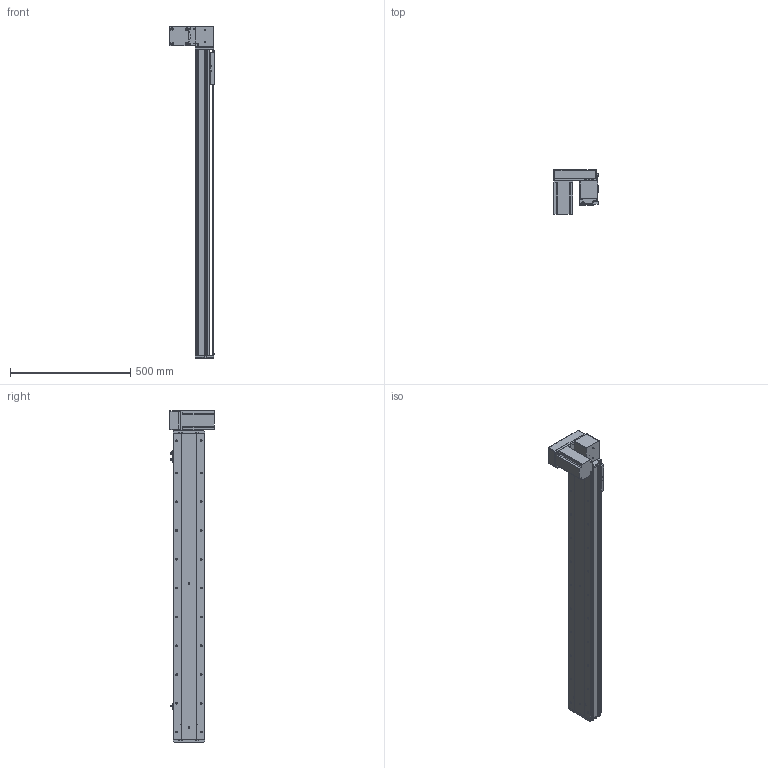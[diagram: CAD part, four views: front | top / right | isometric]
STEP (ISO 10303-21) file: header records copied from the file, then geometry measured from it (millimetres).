
FILE_DESCRIPTION (( 'STEP AP214' ), '1' );
FILE_NAME ('KSD130B-S1050-MRD-CM.STEP', '2019-11-16T00:49:51', ( '微软用户' ), ( '微软中国' ), 'SwSTEP 2.0', 'SolidWorks 2014', '' );
FILE_SCHEMA (( 'AUTOMOTIVE_DESIGN' ));
Length unit declared in the file: millimetre
Products named in the file (12): 130宽模组保护罩上下左右折-同步带; 台达ECMA－C20807AS伺服电机; 130宽模组马达安装板连板上下折丝杆同步带; 覜茼え100遵圉猾敕; U倰嫖萇EEㄜSX672; 130宽盖板半封闭同步带-1050行程; 130宽马达安装板同步带右-改镜向_默认<按加工>; 130宽马达安装板同步带半封闭; 130宽同步带安装座半封闭; 130宽端盖同步带半封闭; 130宽底板半封闭同步带-1050行程; KSD130B-S1050-MRD-CM
Assembly tree (13 placements, depth 2):
  KSD130B-S1050-MRD-CM
    130宽底板半封闭同步带-1050行程
    130宽端盖同步带半封闭
    130宽同步带安装座半封闭
    130宽马达安装板同步带半封闭
    130宽马达安装板同步带右-改镜向_默认<按加工>
    130宽盖板半封闭同步带-1050行程
    U倰嫖萇EEㄜSX672  x3
    覜茼え100遵圉猾敕
    130宽模组马达安装板连板上下折丝杆同步带
    台达ECMA－C20807AS伺服电机
    130宽模组保护罩上下左右折-同步带
Bounding box: 186 x 184.8 x 1383 mm (x, y, z)
Volume: 5100977.5 mm3; surface area: 1397899.3 mm2
Topology: 14 solids, 14 shells, 1547 faces, 4425 edges, 2821 vertices
Faces by surface type: cylinder 742, plane 626, cone 179
Entity records: 51027 total; most frequent: CARTESIAN_POINT 9490, DIRECTION 7767, ORIENTED_EDGE 7478, EDGE_CURVE 3739, AXIS2_PLACEMENT_3D 2838, VERTEX_POINT 2445, VECTOR 2091, LINE 2091
